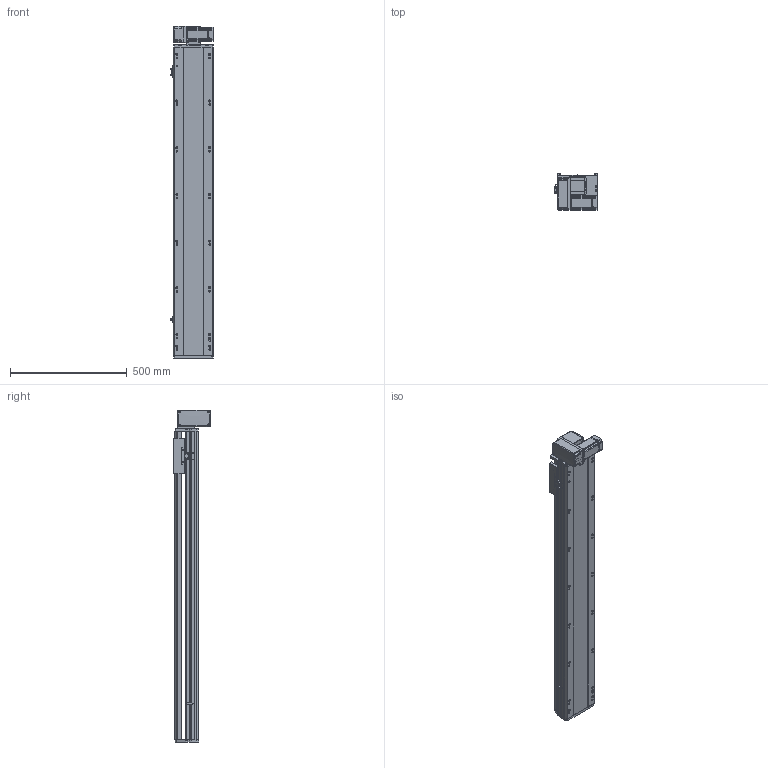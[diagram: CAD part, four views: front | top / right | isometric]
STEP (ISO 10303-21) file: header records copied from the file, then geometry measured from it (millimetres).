
FILE_DESCRIPTION (( 'STEP AP214' ), '1' );
FILE_NAME ('RTB17S-XX-1050-LM-M40-C4.STEP', '2025-12-11T06:26:48', ( '' ), ( '' ), 'SwSTEP 2.0', 'SolidWorks 2018', '' );
FILE_SCHEMA (( 'AUTOMOTIVE_DESIGN' ));
Length unit declared in the file: millimetre
Products named in the file (14): OMRON EE-SX672 传感器^RTB17S-XX-XX-LM-M40-C4; RTB14-L-008-M20--萇儂啣^RTB17S-LM-々湍釱蚾饜-400W_RTB17S-XX-XX-LM-M40-C4; RTB17S-L-007奻裔^RTB17S-XX-XX-LM-M40-C4; RTB17S-L-004佪裝蹟譫蟀諉釱^RTB17S-XX-XX-LM-M40-C4; RTB14-L-018P^RTB17S-LM-々湍釱蚾饜-400W_RTB17S-XX-XX-LM-M40-C4; 400W侜督萇儂^RTB17S-XX-XX-LM-M40-C4; RTB17-R-011菁釱^RTB17S-XX-XX-LM-M40-C4; RTB17S-XX-1050-LM-M40-C4; RTB14-L-005P--轴承塑胶压盖^RTB17S-LM-皮带座装配-400W_RTB17S-XX-XX-LM-M40-C4; RMP17S-L-014-T20--々湍釱^RTB17S-LM-々湍釱蚾饜-400W_RTB17S-XX-XX-LM-M40-C4; RTB14-L-017P^RTB17S-LM-々湍釱蚾饜-400W_RTB17S-XX-XX-LM-M40-C4; RTH13-BL-012覜茼え俋离^RTB17S-XX-XX-LM-M40-C4; RTB17S-LM-々湍釱蚾饜-400W^RTB17S-XX-XX-LM-M40-C4; RTB17S-L-001耜醱啣^RTB17S-XX-XX-LM-M40-C4
Assembly tree (16 placements, depth 3):
  RTB17S-XX-1050-LM-M40-C4
    RTB17-R-011菁釱^RTB17S-XX-XX-LM-M40-C4
    RTB17S-L-007奻裔^RTB17S-XX-XX-LM-M40-C4
    OMRON EE-SX672 传感器^RTB17S-XX-XX-LM-M40-C4  x3
    RTH13-BL-012覜茼え俋离^RTB17S-XX-XX-LM-M40-C4
    RTB17S-L-001耜醱啣^RTB17S-XX-XX-LM-M40-C4
    400W侜督萇儂^RTB17S-XX-XX-LM-M40-C4
    RTB17S-L-004佪裝蹟譫蟀諉釱^RTB17S-XX-XX-LM-M40-C4
    RTB17S-LM-々湍釱蚾饜-400W^RTB17S-XX-XX-LM-M40-C4
      RMP17S-L-014-T20--々湍釱^RTB17S-LM-々湍釱蚾饜-400W_RTB17S-XX-XX-LM-M40-C4
      RTB14-L-005P--轴承塑胶压盖^RTB17S-LM-皮带座装配-400W_RTB17S-XX-XX-LM-M40-C4
      RTB14-L-008-M20--萇儂啣^RTB17S-LM-々湍釱蚾饜-400W_RTB17S-XX-XX-LM-M40-C4
      RTB14-L-017P^RTB17S-LM-々湍釱蚾饜-400W_RTB17S-XX-XX-LM-M40-C4  x2
      RTB14-L-018P^RTB17S-LM-々湍釱蚾饜-400W_RTB17S-XX-XX-LM-M40-C4
Bounding box: 186 x 156.5 x 1422.5 mm (x, y, z)
Volume: 12776869.5 mm3; surface area: 1544328 mm2
Topology: 15 solids, 15 shells, 2221 faces, 6141 edges, 4005 vertices
Faces by surface type: plane 1070, cylinder 703, bspline 301, cone 139, torus 8
Entity records: 63401 total; most frequent: CARTESIAN_POINT 17746, ORIENTED_EDGE 9126, DIRECTION 8486, EDGE_CURVE 4563, VERTEX_POINT 2993, AXIS2_PLACEMENT_3D 2923, LINE 2640, VECTOR 2640
